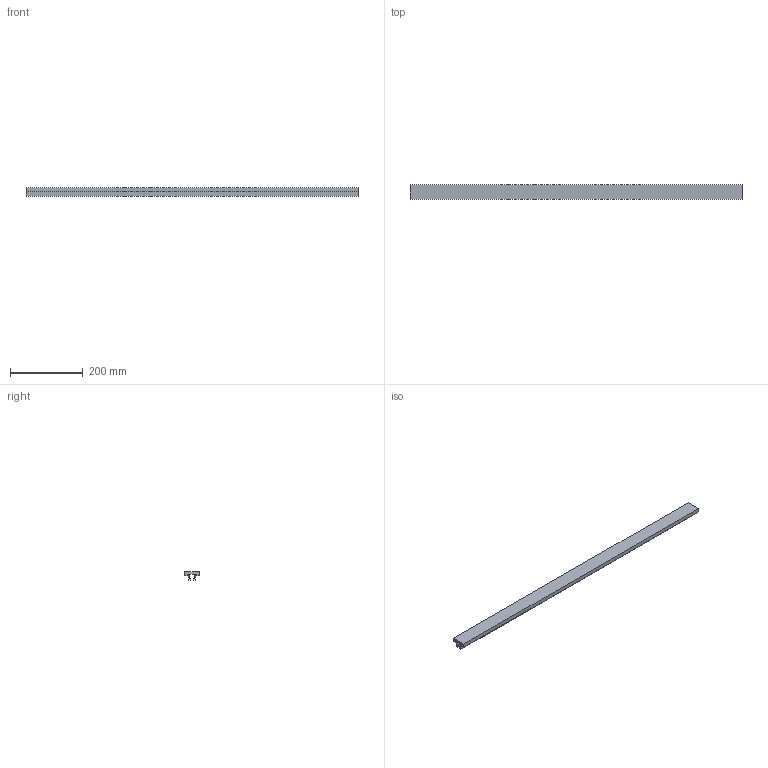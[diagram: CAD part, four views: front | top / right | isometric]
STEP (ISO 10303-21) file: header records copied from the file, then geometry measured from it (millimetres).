
FILE_DESCRIPTION (( 'STEP AP214' ), '1' );
FILE_NAME ('955-014.STEP', '2022-10-10T12:31:08', ( '' ), ( '' ), 'SwSTEP 2.0', 'SolidWorks 2022', '' );
FILE_SCHEMA (( 'AUTOMOTIVE_DESIGN' ));
Length unit declared in the file: millimetre
Products named in the file (1): 955-014
Bounding box: 910 x 40 x 23 mm (x, y, z)
Volume: 398216 mm3; surface area: 167951.2 mm2
Topology: 1 solids, 1 shells, 22 faces, 60 edges, 40 vertices
Faces by surface type: plane 22
Entity records: 718 total; most frequent: CARTESIAN_POINT 123, ORIENTED_EDGE 120, DIRECTION 106, EDGE_CURVE 60, LINE 60, VECTOR 60, VERTEX_POINT 40, AXIS2_PLACEMENT_3D 23
